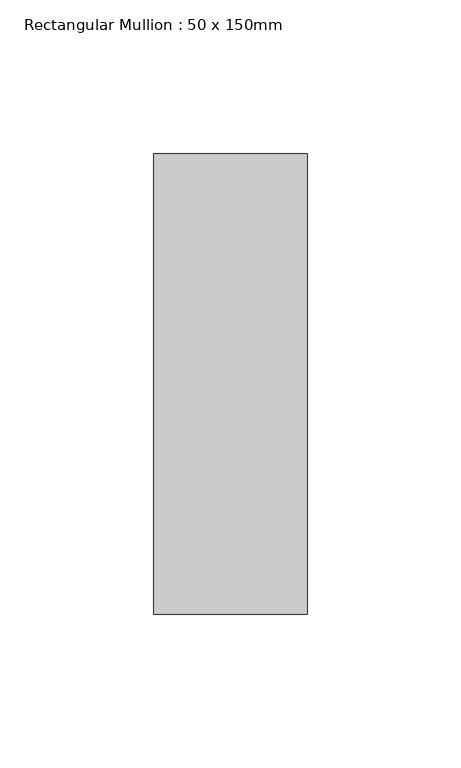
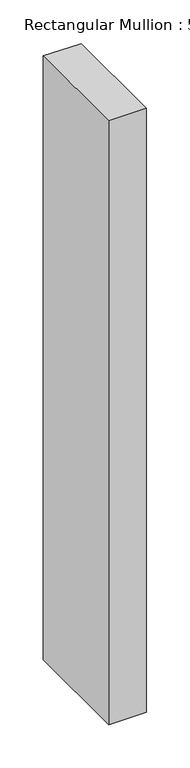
"""IFC4 building model written with IfcOpenShell, lengths in millimetres: member geometry, Rectangular Mullion : 50 x 150mm."""

from ifc_helpers import new_model, si_unit, frame, origin, place, context, project, spatial, polyline, outline, extrude, source, transform, mapped, element, save


def rectangular_mullion_50_x_150mm_2c640c09(model_context):
    return source(origin(), model_context, "Body", "SweptSolid", [
        extrude(outline(polyline([(0.0, 0.0), (0.0976492, -50.0), (-847.9932536, -50.0), (-847.9223333, 0.0), (0.0, 0.0)])), frame((0.0, -75.0, 0.0), z_axis=(0.0, 1.0, 0.0), x_axis=(0.0, 0.0, 1.0)), (0.0, 0.0, 1.0), 150.0),
    ])


if __name__ == "__main__":
    model = new_model("IFC4")
    model_context = context("Model", 3, world=origin())
    ifc_project = project(units=[si_unit("LENGTHUNIT", "METRE", prefix="MILLI")], contexts=[model_context])
    site = spatial("IfcSite", under=ifc_project)
    building = spatial("IfcBuilding", under=site)
    placement = place(None, origin())
    rectangular_mullion_50_x_150mm_shape = rectangular_mullion_50_x_150mm_2c640c09(model_context)
    element("IfcMember", 1, ObjectType="Rectangular Mullion : 50 x 150mm", at=placement, inside=building, context=model_context, shape_type="MappedRepresentation", body=[
        mapped(rectangular_mullion_50_x_150mm_shape, transform((0.0, 0.0, 0.0), x_axis=(1.0, 0.0, 0.0), y_axis=(0.0, 1.0, 0.0), z_axis=(0.0, 0.0, 1.0))),
    ])
    save(model, "model.ifc")
